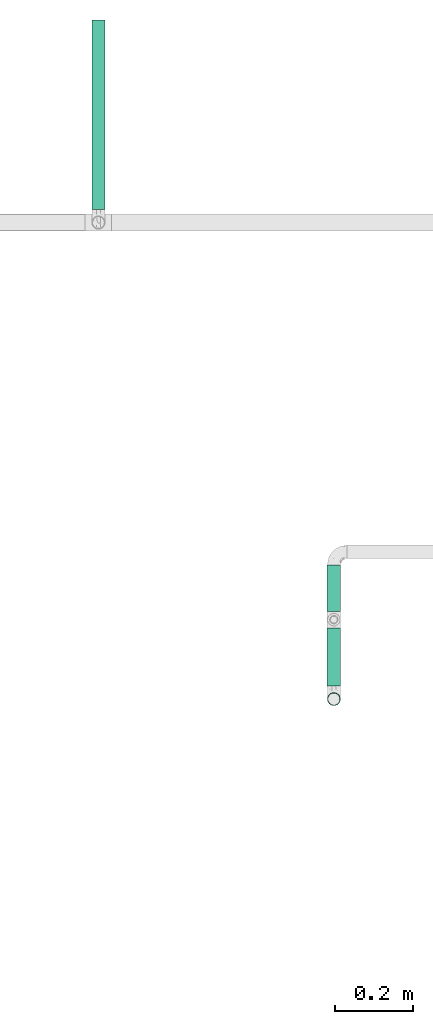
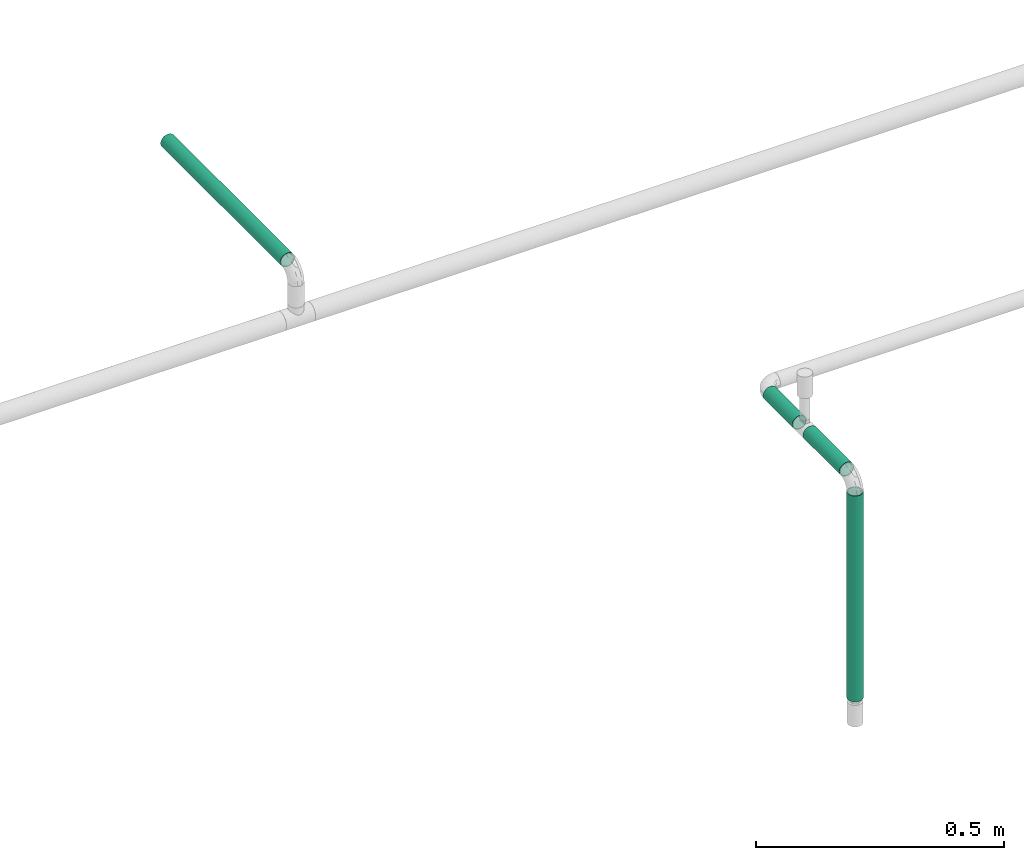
# One storey, part 6 of 51: 4 flow segments.
"""IFC2X3 building model written with IfcOpenShell, lengths in millimetres."""

from ifc_helpers import new_model, entity, si_unit, converted_unit, derived_unit, direction, frame, origin_with_axes, origin_2d_with_axis, place, context, subcontext, project, spatial, hollow_circle, extrude, source, transform, mapped, type_object, element, save


model = new_model("IFC2X3")

# Units and contexts
model_context = context("Model", 3, precision=0.01, world=frame((0.0, 4.29681676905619e-09, 0.0)), true_north=direction((4.01073788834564e-13, 1.0)))
plan_context = context("Plan", 3, precision=0.01, world=frame((0.0, 4.29681676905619e-09, 0.0)), true_north=direction((4.01073788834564e-13, 1.0)))
body_context = subcontext(model_context, "Body", "Model", "MODEL_VIEW")
ifc_project = project(units=[converted_unit("PLANEANGLEUNIT", "DEGREE", entity("IfcPositiveLengthMeasure", 0.0174532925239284), si_unit("PLANEANGLEUNIT", "RADIAN"), dimensions=[0, 0, 0, 0, 0, 0, 0]), si_unit("AREAUNIT", "SQUARE_METRE"), si_unit("LENGTHUNIT", "METRE", prefix="MILLI"), si_unit("MASSUNIT", "GRAM", prefix="KILO"), si_unit("POWERUNIT", "WATT"), si_unit("PRESSUREUNIT", "PASCAL"), si_unit("FORCEUNIT", "NEWTON", prefix="KILO"), si_unit("ELECTRICVOLTAGEUNIT", "VOLT"), si_unit("ELECTRICCURRENTUNIT", "AMPERE"), si_unit("THERMODYNAMICTEMPERATUREUNIT", "DEGREE_CELSIUS"), si_unit("TIMEUNIT", "SECOND"), si_unit("VOLUMEUNIT", "CUBIC_METRE"), derived_unit("LINEARVELOCITYUNIT", [(si_unit("LENGTHUNIT", "METRE"), 1), (si_unit("TIMEUNIT", "SECOND"), -1)]), derived_unit("VOLUMETRICFLOWRATEUNIT", [(si_unit("VOLUMEUNIT", "CUBIC_METRE"), 1), (si_unit("TIMEUNIT", "SECOND"), -1)]), derived_unit("THERMALTRANSMITTANCEUNIT", [(si_unit("POWERUNIT", "WATT"), 1), (si_unit("THERMODYNAMICTEMPERATUREUNIT", "KELVIN"), -1), (si_unit("AREAUNIT", "SQUARE_METRE"), -1)]), derived_unit("SOUNDPRESSUREUNIT", [(si_unit("PRESSUREUNIT", "PASCAL"), 1)])], contexts=[model_context, plan_context])

# Site, building, storey
site_placement = place(None, frame((0.0, -4.29681676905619e-09, 0.0), z_axis=(0.0, 0.0, 1.0), x_axis=(1.0, 0.0, 0.0)))
site = spatial("IfcSite", under=ifc_project, at=site_placement, Name="ENGM", CompositionType="ELEMENT")
building_placement = place(site_placement, frame((0.0, 4.29681676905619e-09, 0.0), z_axis=(0.0, 0.0, 1.0), x_axis=(1.0, 0.0, 0.0)))
building = spatial("IfcBuilding", under=site, at=building_placement, Name="TH", CompositionType="ELEMENT")
storey_placement = place(building_placement, frame((0.0, 0.0, 210200.0), z_axis=(0.0, 0.0, 1.0), x_axis=(1.0, 0.0, 0.0)))
storey = spatial("IfcBuildingStorey", under=building, at=storey_placement, Name="Nivå F - 0,7 m", CompositionType="ELEMENT", Elevation=210200.0)

# Flow segments
pipe_segment_type = type_object("IfcPipeSegmentType", Name="Stålrør normaltykke", PredefinedType="RIGIDSEGMENT")
shared_shape_1 = source(origin_with_axes(), body_context, "Body", "SweptSolid", [
    extrude(hollow_circle(Radius=16.9, WallThickness=2.0, at=origin_2d_with_axis()), frame((0.0, 0.0, 0.0), z_axis=(1.0, 0.0, 0.0), x_axis=(0.0, 1.0, 0.0)), (0.0, 0.0, 1.0), 482.5),
])
flow_segment_1_placement = place(storey_placement, frame((896499.91443, 487556.35302, 2938.32088000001), z_axis=(0.0, 0.0, 1.0), x_axis=(0.0, -1.0, 0.0)))
element("IfcFlowSegment", 1, at=flow_segment_1_placement, inside=storey, type_object=pipe_segment_type, Name="Stålrør normaltykke", context=body_context, shape_type="MappedRepresentation", body=[
    mapped(shared_shape_1, transform((0.0, 0.0, 0.0), scale=1.0)),
])
shared_shape_2 = source(origin_with_axes(), body_context, "Body", "SweptSolid", [
    extrude(hollow_circle(Radius=16.9, WallThickness=2.0, at=origin_2d_with_axis()), frame((0.0, 0.0, 0.0), z_axis=(1.0, 0.0, 0.0), x_axis=(0.0, 1.0, 0.0)), (0.0, 0.0, 1.0), 147.3),
])
flow_segment_2_placement = place(storey_placement, frame((897100.0, 485859.21276, 2949.62932000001), z_axis=(0.0, 0.00018099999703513, 0.9999999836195), x_axis=(0.0, 0.9999999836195, -0.00018099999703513)))
element("IfcFlowSegment", 2, at=flow_segment_2_placement, inside=storey, type_object=pipe_segment_type, Name="Stålrør normaltykke", context=body_context, shape_type="MappedRepresentation", body=[
    mapped(shared_shape_2, transform((0.0, 0.0, 0.0), scale=1.0)),
])
shared_shape_3 = source(origin_with_axes(), body_context, "Body", "SweptSolid", [
    extrude(hollow_circle(Radius=16.9, WallThickness=2.0, at=origin_2d_with_axis()), frame((0.0, 0.0, 0.0), z_axis=(1.0, 0.0, 0.0), x_axis=(0.0, 1.0, 0.0)), (0.0, 0.0, 1.0), 118.0),
])
flow_segment_3_placement = place(storey_placement, frame((897100.0, 486049.17583, 2949.59628999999), z_axis=(0.0, 0.00018099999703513, 0.9999999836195), x_axis=(0.0, 0.9999999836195, -0.00018099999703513)))
element("IfcFlowSegment", 3, at=flow_segment_3_placement, inside=storey, type_object=pipe_segment_type, Name="Stålrør normaltykke", context=body_context, shape_type="MappedRepresentation", body=[
    mapped(shared_shape_3, transform((0.0, 0.0, 0.0), scale=1.0)),
])
shared_shape_4 = source(origin_with_axes(), body_context, "Body", "SweptSolid", [
    extrude(hollow_circle(Radius=16.9, WallThickness=2.0, at=origin_2d_with_axis()), frame((0.0, 0.0, 0.0), z_axis=(1.0, 0.0, 0.0), x_axis=(0.0, 1.0, 0.0)), (0.0, 0.0, 1.0), 506.4),
])
flow_segment_4_placement = place(storey_placement, frame((897100.0, 485825.40642, 2409.35200000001), z_axis=(-1.0, 0.0, 0.0), x_axis=(0.0, 0.0, 1.0)))
element("IfcFlowSegment", 4, at=flow_segment_4_placement, inside=storey, type_object=pipe_segment_type, Name="Stålrør normaltykke", context=body_context, shape_type="MappedRepresentation", body=[
    mapped(shared_shape_4, transform((0.0, 0.0, 0.0), scale=1.0)),
])

save(model, "model.ifc")
